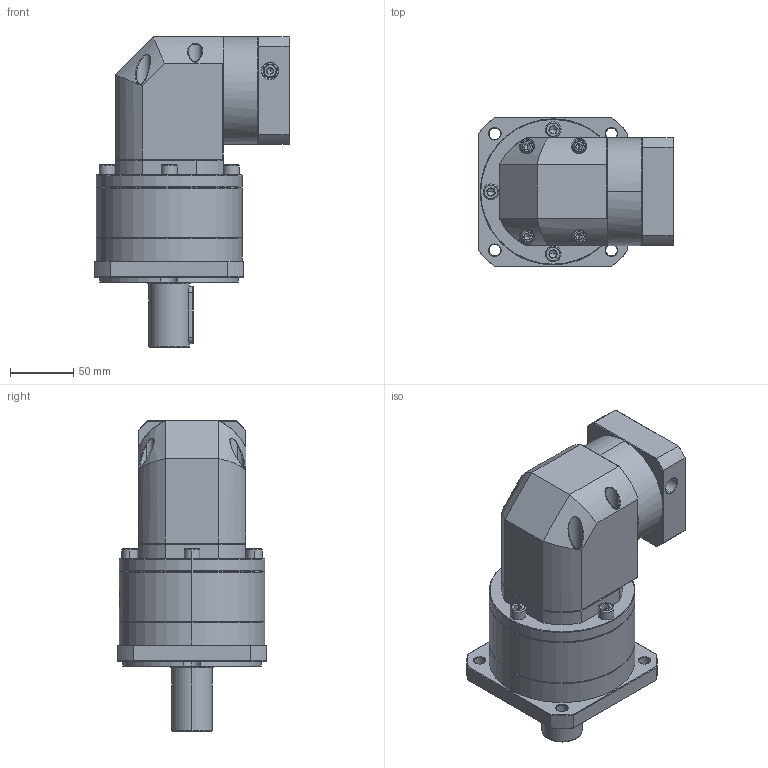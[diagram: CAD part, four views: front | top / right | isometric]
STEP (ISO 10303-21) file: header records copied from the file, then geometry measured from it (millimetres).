
FILE_DESCRIPTION (( 'STEP AP214' ), '1' );
FILE_NAME ('ZFR120A-D32-L2-P2-14-73-69.6X69.6-M6.step', '2023-08-27T09:18:25', ( '' ), ( '' ), 'SwSTEP 2.0', 'SolidWorks 2016', '' );
FILE_SCHEMA (( 'AUTOMOTIVE_DESIGN' ));
Length unit declared in the file: millimetre
Products named in the file (1): ZFR120A-D32-L2-P2-14-73-69.6X69.6-M6
Bounding box: 154.1 x 118 x 245 mm (x, y, z)
Volume: 1868070.9 mm3; surface area: 172158.9 mm2
Topology: 6 solids, 6 shells, 2393 faces, 6252 edges, 3965 vertices
Faces by surface type: plane 1155, cylinder 453, bspline 443, cone 328, torus 14
Entity records: 129924 total; most frequent: CARTESIAN_POINT 50539, ORIENTED_EDGE 12412, DIRECTION 9140, EDGE_CURVE 6206, VERTEX_POINT 3965, LINE 3338, VECTOR 3338, AXIS2_PLACEMENT_3D 2901
